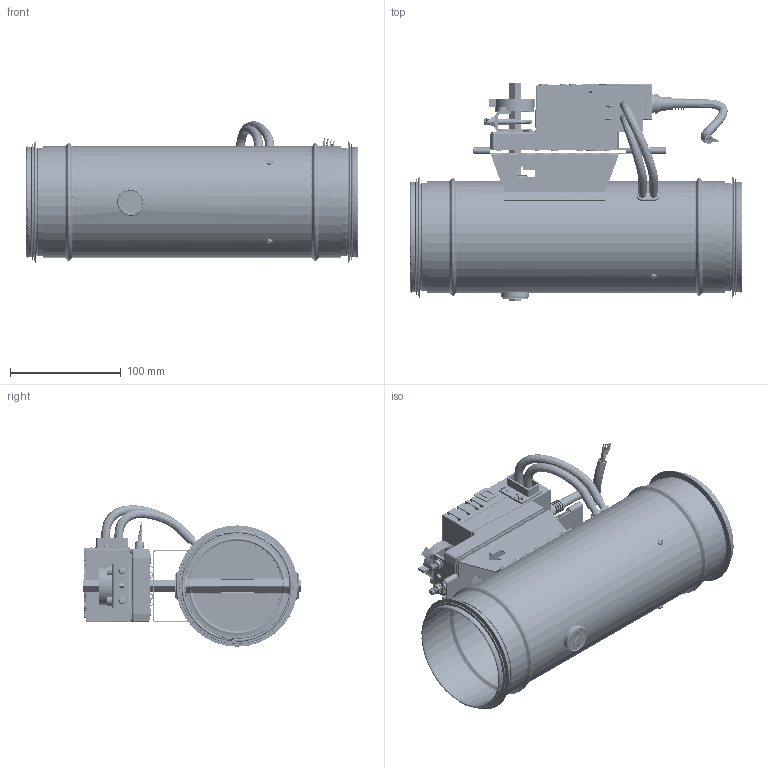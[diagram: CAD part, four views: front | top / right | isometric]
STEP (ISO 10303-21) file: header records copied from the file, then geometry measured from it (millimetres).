
FILE_DESCRIPTION (( 'STEP AP214' ), '1' );
FILE_NAME ('VAV-R100.STEP', '2025-03-10T14:16:42', ( '' ), ( '' ), 'SwSTEP 2.0', 'SolidWorks 2025', '' );
FILE_SCHEMA (( 'AUTOMOTIVE_DESIGN' ));
Length unit declared in the file: millimetre
Products named in the file (21): Achse Vierkant 8x8xxx_x_x; LDE_DN100; BELIMO_MOTOR BRACKET; Teil5^VAV-R100; Dichtung_innenxxx_x_x; CROSS_WING100; LMV-D3-MP; Ventilklappexxx_x_x; BLECHSCHRAUBE; VSRV_Zapfen; Label VAVR100; KLAPPE; Dichtung_Vierkantxxx_x_x; CROSS_PLUG; Sicherungsscheibexxx_x_x; CROSS_PIECE; DB_DN100; CROSS_DN100; VAV-R100; Screw 4.0x8mmxxx_x_x; Abschlusskappexxx_x_x
Assembly tree (34 placements, depth 3):
  VAV-R100
    DB_DN100
    BELIMO_MOTOR BRACKET
    CROSS_DN100
      CROSS_PIECE
      CROSS_WING100  x4
      CROSS_PLUG  x3
      VSRV_Zapfen
    LDE_DN100  x2
    BLECHSCHRAUBE  x3
    LMV-D3-MP
    KLAPPE
      Abschlusskappexxx_x_x  x2
      Achse Vierkant 8x8xxx_x_x
      Dichtung_innenxxx_x_x  x2
      Dichtung_Vierkantxxx_x_x  x2
      Sicherungsscheibexxx_x_x  x2
      Ventilklappexxx_x_x
      Screw 4.0x8mmxxx_x_x  x3
    Label VAVR100
    Teil5^VAV-R100
Bounding box: 300.34 x 197 x 127.86 mm (x, y, z)
Volume: 137515.2 mm3; surface area: 422458 mm2
Topology: 33 solids, 51 shells, 7044 faces, 19065 edges, 12513 vertices
Faces by surface type: plane 3067, bspline 2527, cylinder 1179, torus 149, cone 89, sphere 33
Full cylindrical faces by diameter (mm): 1 x10, 1.911 x6, 2 x16, 2.5 x6, 3 x1, 3.356 x18, 3.5 x3, 3.927 x30, 4 x2, 5 x2, 5.5 x3, 6 x30, 7.5 x2, 8 x25, 11 x1, 16 x2, 20 x2, 21 x2, 21.422 x2, 23.5 x2, 25 x2, 96.74 x2, 99.14 x4, 109.74 x2
Entity records: 369851 total; most frequent: CARTESIAN_POINT 168173, ORIENTED_EDGE 35289, EDGE_CURVE 17666, DIRECTION 16617, VERTEX_POINT 11704, B_SPLINE_CURVE_WITH_KNOTS 11306, EDGE_LOOP 7315, FACE_OUTER_BOUND 6709
